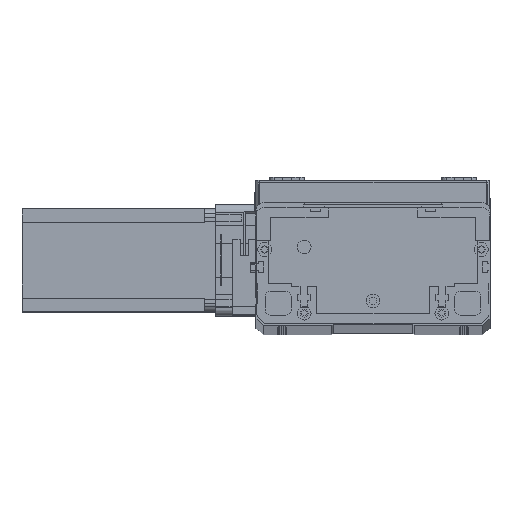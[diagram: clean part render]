
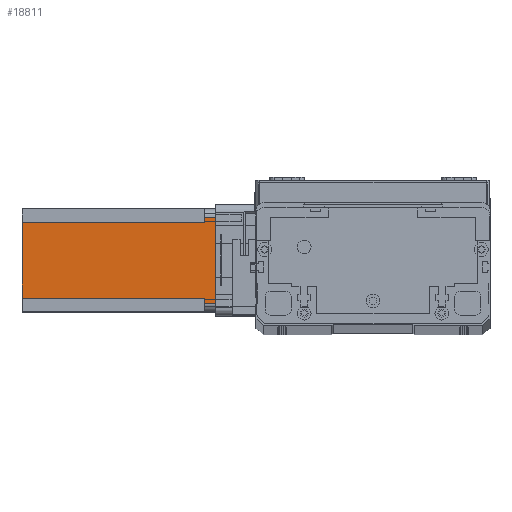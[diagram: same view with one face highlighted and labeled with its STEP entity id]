
A CAD part, top view. The second image highlights one B-rep face of the part: STEP entity #18811.
In plain terms, the highlighted planar face has unit normal (0, 0, 1) as drawn and (0, -1, 0) by its records, which use the part's own axes.
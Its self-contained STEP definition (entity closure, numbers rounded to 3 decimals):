
#227 = EDGE_CURVE ( 'NONE', #19618, #8422, #25309, .T. ) ;
#385 = VECTOR ( 'NONE', #16330, 1000. ) ;
#423 = LINE ( 'NONE', #5433, #5566 ) ;
#904 = DIRECTION ( 'NONE',  ( 0., 0., 1. ) ) ;
#1118 = CARTESIAN_POINT ( 'NONE',  ( 8., 0., -6.5 ) ) ;
#1756 = LINE ( 'NONE', #3043, #24041 ) ;
#1829 = CARTESIAN_POINT ( 'NONE',  ( 52., 0., -112.5 ) ) ;
#2498 = DIRECTION ( 'NONE',  ( 0., 0., -1. ) ) ;
#3043 = CARTESIAN_POINT ( 'NONE',  ( 8., 0., -112.5 ) ) ;
#5114 = CARTESIAN_POINT ( 'NONE',  ( 52., 0., -112.5 ) ) ;
#5421 = LINE ( 'NONE', #7863, #21968 ) ;
#5433 = CARTESIAN_POINT ( 'NONE',  ( 0., 0., 0. ) ) ;
#5566 = VECTOR ( 'NONE', #20529, 1000. ) ;
#7405 = LINE ( 'NONE', #1829, #23853 ) ;
#7863 = CARTESIAN_POINT ( 'NONE',  ( 5., 0., -112.5 ) ) ;
#8422 = VERTEX_POINT ( 'NONE', #26183 ) ;
#8863 = ORIENTED_EDGE ( 'NONE', *, *, #26618, .F. ) ;
#8871 = EDGE_CURVE ( 'NONE', #15230, #18989, #17820, .T. ) ;
#9600 = CARTESIAN_POINT ( 'NONE',  ( 52., 0., -6.5 ) ) ;
#9763 = ORIENTED_EDGE ( 'NONE', *, *, #22545, .T. ) ;
#9829 = ORIENTED_EDGE ( 'NONE', *, *, #227, .T. ) ;
#10257 = CARTESIAN_POINT ( 'NONE',  ( 55., 0., -112.5 ) ) ;
#10727 = CARTESIAN_POINT ( 'NONE',  ( 0., 0., -112.5 ) ) ;
#12679 = LINE ( 'NONE', #1118, #385 ) ;
#13910 = EDGE_CURVE ( 'NONE', #15230, #19487, #1756, .T. ) ;
#14716 = CARTESIAN_POINT ( 'NONE',  ( 5., 0., 0. ) ) ;
#15230 = VERTEX_POINT ( 'NONE', #22047 ) ;
#15492 = DIRECTION ( 'NONE',  ( 0., -1., 0. ) ) ;
#15557 = CARTESIAN_POINT ( 'NONE',  ( 5., 0., -6.5 ) ) ;
#15596 = VERTEX_POINT ( 'NONE', #19035 ) ;
#15617 = ORIENTED_EDGE ( 'NONE', *, *, #24022, .F. ) ;
#15656 = ORIENTED_EDGE ( 'NONE', *, *, #19686, .F. ) ;
#16051 = CARTESIAN_POINT ( 'NONE',  ( 52., 0., -6.5 ) ) ;
#16330 = DIRECTION ( 'NONE',  ( -1., 0., 0. ) ) ;
#17129 = VECTOR ( 'NONE', #27801, 1000. ) ;
#17709 = ORIENTED_EDGE ( 'NONE', *, *, #8871, .T. ) ;
#17800 = VERTEX_POINT ( 'NONE', #15557 ) ;
#17820 = LINE ( 'NONE', #25726, #17129 ) ;
#18811 = ADVANCED_FACE ( 'NONE', ( #21166 ), #26115, .T. ) ;
#18989 = VERTEX_POINT ( 'NONE', #5114 ) ;
#19035 = CARTESIAN_POINT ( 'NONE',  ( 55., 0., 0. ) ) ;
#19487 = VERTEX_POINT ( 'NONE', #19888 ) ;
#19618 = VERTEX_POINT ( 'NONE', #16051 ) ;
#19672 = VECTOR ( 'NONE', #21666, 1000. ) ;
#19686 = EDGE_CURVE ( 'NONE', #19487, #17800, #12679, .T. ) ;
#19823 = ORIENTED_EDGE ( 'NONE', *, *, #23939, .T. ) ;
#19888 = CARTESIAN_POINT ( 'NONE',  ( 8., 0., -6.5 ) ) ;
#20529 = DIRECTION ( 'NONE',  ( 1., 0., 0. ) ) ;
#20739 = EDGE_LOOP ( 'NONE', ( #9829, #19823, #8863, #9763, #15656, #22608, #17709, #15617 ) ) ;
#20894 = VECTOR ( 'NONE', #21077, 1000. ) ;
#21077 = DIRECTION ( 'NONE',  ( 0., 0., 1. ) ) ;
#21166 = FACE_OUTER_BOUND ( 'NONE', #20739, .T. ) ;
#21587 = LINE ( 'NONE', #10257, #20894 ) ;
#21666 = DIRECTION ( 'NONE',  ( 1., 0., 0. ) ) ;
#21968 = VECTOR ( 'NONE', #22889, 1000. ) ;
#22047 = CARTESIAN_POINT ( 'NONE',  ( 8., 0., -112.5 ) ) ;
#22545 = EDGE_CURVE ( 'NONE', #24701, #17800, #5421, .T. ) ;
#22608 = ORIENTED_EDGE ( 'NONE', *, *, #13910, .F. ) ;
#22889 = DIRECTION ( 'NONE',  ( 0., 0., -1. ) ) ;
#23853 = VECTOR ( 'NONE', #25578, 1000. ) ;
#23939 = EDGE_CURVE ( 'NONE', #8422, #15596, #21587, .T. ) ;
#24022 = EDGE_CURVE ( 'NONE', #19618, #18989, #7405, .T. ) ;
#24041 = VECTOR ( 'NONE', #904, 1000. ) ;
#24215 = AXIS2_PLACEMENT_3D ( 'NONE', #10727, #15492, #2498 ) ;
#24701 = VERTEX_POINT ( 'NONE', #14716 ) ;
#25309 = LINE ( 'NONE', #9600, #19672 ) ;
#25578 = DIRECTION ( 'NONE',  ( 0., 0., -1. ) ) ;
#25726 = CARTESIAN_POINT ( 'NONE',  ( 0., 0., -112.5 ) ) ;
#26115 = PLANE ( 'NONE',  #24215 ) ;
#26183 = CARTESIAN_POINT ( 'NONE',  ( 55., 0., -6.5 ) ) ;
#26618 = EDGE_CURVE ( 'NONE', #24701, #15596, #423, .T. ) ;
#27801 = DIRECTION ( 'NONE',  ( 1., 0., 0. ) ) ;
